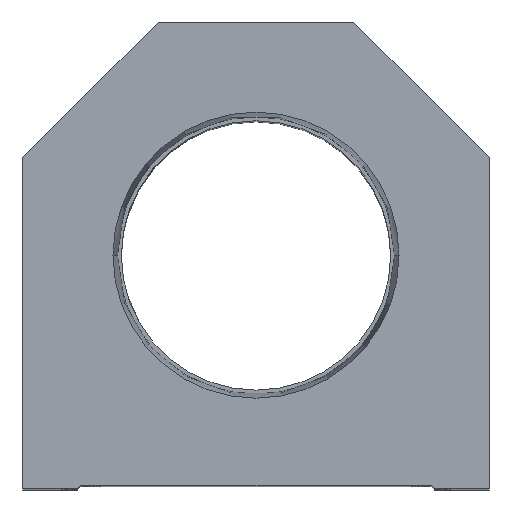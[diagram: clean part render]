
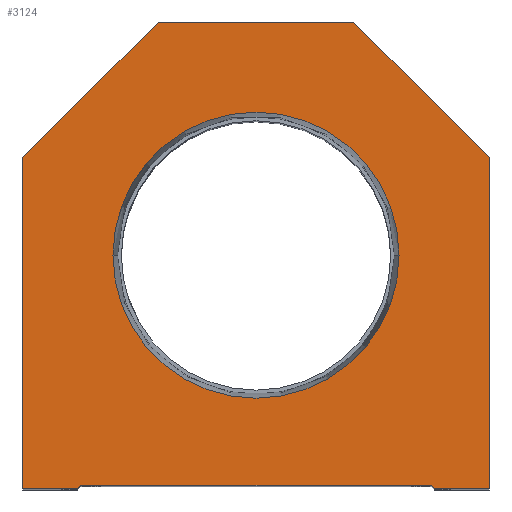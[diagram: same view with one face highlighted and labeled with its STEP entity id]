
A CAD part, top view. The second image highlights one B-rep face of the part: STEP entity #3124.
In plain terms, the highlighted planar face has unit normal (0, 0, 1).
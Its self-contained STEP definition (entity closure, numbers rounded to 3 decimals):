
#199 = FACE_BOUND ( 'NONE', #1363, .T. ) ;
#353 = VECTOR ( 'NONE', #7825, 1000. ) ;
#383 = VECTOR ( 'NONE', #1575, 1000. ) ;
#970 = EDGE_CURVE ( 'NONE', #13100, #6611, #3963, .T. ) ;
#1093 = ORIENTED_EDGE ( 'NONE', *, *, #12048, .T. ) ;
#1363 = EDGE_LOOP ( 'NONE', ( #12205, #3688 ) ) ;
#1563 = DIRECTION ( 'NONE',  ( 1., 0., 0. ) ) ;
#1575 = DIRECTION ( 'NONE',  ( 1., 0., 0. ) ) ;
#1595 = DIRECTION ( 'NONE',  ( -1., 0., 0. ) ) ;
#1613 = CARTESIAN_POINT ( 'NONE',  ( 38.1, 0., 0. ) ) ;
#1743 = CARTESIAN_POINT ( 'NONE',  ( 0., 38.1, 0. ) ) ;
#1983 = EDGE_CURVE ( 'NONE', #13194, #3846, #12935, .T. ) ;
#2704 = CARTESIAN_POINT ( 'NONE',  ( -38.1, 54.1, 0. ) ) ;
#2813 = CARTESIAN_POINT ( 'NONE',  ( 0., 0., 0. ) ) ;
#2831 = AXIS2_PLACEMENT_3D ( 'NONE', #2813, #4077, #1563 ) ;
#2880 = ORIENTED_EDGE ( 'NONE', *, *, #16365, .T. ) ;
#3031 = CARTESIAN_POINT ( 'NONE',  ( 14.55, 14.55, 0. ) ) ;
#3124 = ADVANCED_FACE ( 'NONE', ( #199, #5336 ), #15608, .T. ) ;
#3467 = VECTOR ( 'NONE', #13324, 1000. ) ;
#3688 = ORIENTED_EDGE ( 'NONE', *, *, #4573, .F. ) ;
#3700 = DIRECTION ( 'NONE',  ( 0., -1., 0. ) ) ;
#3846 = VERTEX_POINT ( 'NONE', #1613 ) ;
#3963 = LINE ( 'NONE', #2704, #13917 ) ;
#4077 = DIRECTION ( 'NONE',  ( 0., 0., 1. ) ) ;
#4109 = LINE ( 'NONE', #12874, #353 ) ;
#4193 = CARTESIAN_POINT ( 'NONE',  ( 16., 76.2, 0. ) ) ;
#4211 = VERTEX_POINT ( 'NONE', #5773 ) ;
#4263 = CARTESIAN_POINT ( 'NONE',  ( 38.1, 54.1, 0. ) ) ;
#4275 = CARTESIAN_POINT ( 'NONE',  ( 23.374, 38.1, 0. ) ) ;
#4345 = VERTEX_POINT ( 'NONE', #10125 ) ;
#4398 = AXIS2_PLACEMENT_3D ( 'NONE', #15289, #6286, #11756 ) ;
#4573 = EDGE_CURVE ( 'NONE', #4345, #6707, #6410, .T. ) ;
#4615 = CARTESIAN_POINT ( 'NONE',  ( 28.6, 0.5, 0. ) ) ;
#5140 = DIRECTION ( 'NONE',  ( -0.707, -0.707, 0. ) ) ;
#5336 = FACE_OUTER_BOUND ( 'NONE', #10319, .T. ) ;
#5601 = DIRECTION ( 'NONE',  ( 0., 0., 1. ) ) ;
#5773 = CARTESIAN_POINT ( 'NONE',  ( -38.1, 0., 0. ) ) ;
#5838 = EDGE_CURVE ( 'NONE', #11083, #13283, #16314, .T. ) ;
#6286 = DIRECTION ( 'NONE',  ( 0., 0., 1. ) ) ;
#6410 = CIRCLE ( 'NONE', #12565, 23.374 ) ;
#6441 = VECTOR ( 'NONE', #12543, 1000. ) ;
#6611 = VERTEX_POINT ( 'NONE', #8502 ) ;
#6707 = VERTEX_POINT ( 'NONE', #4275 ) ;
#6853 = CARTESIAN_POINT ( 'NONE',  ( -28.6, 0., 0. ) ) ;
#6999 = DIRECTION ( 'NONE',  ( 0.707, -0.707, 0. ) ) ;
#7177 = DIRECTION ( 'NONE',  ( 1., 0., 0. ) ) ;
#7719 = CARTESIAN_POINT ( 'NONE',  ( 28.6, 0., 0. ) ) ;
#7825 = DIRECTION ( 'NONE',  ( -0.707, 0.707, 0. ) ) ;
#8110 = LINE ( 'NONE', #13239, #3467 ) ;
#8489 = EDGE_CURVE ( 'NONE', #12233, #13194, #15827, .T. ) ;
#8502 = CARTESIAN_POINT ( 'NONE',  ( -38.1, 54.1, 0. ) ) ;
#8524 = CARTESIAN_POINT ( 'NONE',  ( -14.55, 14.55, 0. ) ) ;
#8963 = LINE ( 'NONE', #10308, #16451 ) ;
#9100 = EDGE_CURVE ( 'NONE', #10234, #13100, #13289, .T. ) ;
#9156 = VECTOR ( 'NONE', #3700, 1000. ) ;
#9165 = DIRECTION ( 'NONE',  ( 1., 0., 0. ) ) ;
#9428 = VECTOR ( 'NONE', #7177, 1000. ) ;
#9868 = CARTESIAN_POINT ( 'NONE',  ( 16., 76.2, 0. ) ) ;
#9939 = EDGE_CURVE ( 'NONE', #4211, #11083, #15927, .T. ) ;
#9998 = CARTESIAN_POINT ( 'NONE',  ( 29.1, 0., 0. ) ) ;
#10065 = ORIENTED_EDGE ( 'NONE', *, *, #12275, .T. ) ;
#10125 = CARTESIAN_POINT ( 'NONE',  ( -23.374, 38.1, 0. ) ) ;
#10154 = ORIENTED_EDGE ( 'NONE', *, *, #970, .T. ) ;
#10234 = VERTEX_POINT ( 'NONE', #9868 ) ;
#10308 = CARTESIAN_POINT ( 'NONE',  ( -28.6, 0.5, 0. ) ) ;
#10319 = EDGE_LOOP ( 'NONE', ( #14999, #12249, #1093, #15371, #13378, #2880, #10065, #16182, #10154, #12531 ) ) ;
#10396 = DIRECTION ( 'NONE',  ( 1., 0., 0. ) ) ;
#10638 = EDGE_CURVE ( 'NONE', #6707, #4345, #15663, .T. ) ;
#11083 = VERTEX_POINT ( 'NONE', #14909 ) ;
#11550 = LINE ( 'NONE', #13895, #9156 ) ;
#11756 = DIRECTION ( 'NONE',  ( 1., 0., 0. ) ) ;
#12048 = EDGE_CURVE ( 'NONE', #13283, #12233, #8963, .T. ) ;
#12205 = ORIENTED_EDGE ( 'NONE', *, *, #10638, .F. ) ;
#12233 = VERTEX_POINT ( 'NONE', #4615 ) ;
#12249 = ORIENTED_EDGE ( 'NONE', *, *, #5838, .T. ) ;
#12275 = EDGE_CURVE ( 'NONE', #14653, #10234, #4109, .T. ) ;
#12531 = ORIENTED_EDGE ( 'NONE', *, *, #15866, .T. ) ;
#12543 = DIRECTION ( 'NONE',  ( 0.707, 0.707, 0. ) ) ;
#12565 = AXIS2_PLACEMENT_3D ( 'NONE', #1743, #5601, #9165 ) ;
#12874 = CARTESIAN_POINT ( 'NONE',  ( 38.1, 54.1, 0. ) ) ;
#12935 = LINE ( 'NONE', #7719, #383 ) ;
#13100 = VERTEX_POINT ( 'NONE', #16031 ) ;
#13194 = VERTEX_POINT ( 'NONE', #9998 ) ;
#13239 = CARTESIAN_POINT ( 'NONE',  ( 38.1, 0., 0. ) ) ;
#13283 = VERTEX_POINT ( 'NONE', #15607 ) ;
#13289 = LINE ( 'NONE', #4193, #15906 ) ;
#13324 = DIRECTION ( 'NONE',  ( 0., 1., 0. ) ) ;
#13378 = ORIENTED_EDGE ( 'NONE', *, *, #1983, .T. ) ;
#13895 = CARTESIAN_POINT ( 'NONE',  ( -38.1, 0., 0. ) ) ;
#13917 = VECTOR ( 'NONE', #5140, 1000. ) ;
#14199 = VECTOR ( 'NONE', #6999, 1000. ) ;
#14653 = VERTEX_POINT ( 'NONE', #4263 ) ;
#14909 = CARTESIAN_POINT ( 'NONE',  ( -29.1, 0., 0. ) ) ;
#14999 = ORIENTED_EDGE ( 'NONE', *, *, #9939, .T. ) ;
#15289 = CARTESIAN_POINT ( 'NONE',  ( 0., 38.1, 0. ) ) ;
#15371 = ORIENTED_EDGE ( 'NONE', *, *, #8489, .T. ) ;
#15607 = CARTESIAN_POINT ( 'NONE',  ( -28.6, 0.5, 0. ) ) ;
#15608 = PLANE ( 'NONE',  #2831 ) ;
#15663 = CIRCLE ( 'NONE', #4398, 23.374 ) ;
#15827 = LINE ( 'NONE', #3031, #14199 ) ;
#15866 = EDGE_CURVE ( 'NONE', #6611, #4211, #11550, .T. ) ;
#15906 = VECTOR ( 'NONE', #1595, 1000. ) ;
#15927 = LINE ( 'NONE', #6853, #9428 ) ;
#16031 = CARTESIAN_POINT ( 'NONE',  ( -16., 76.2, 0. ) ) ;
#16182 = ORIENTED_EDGE ( 'NONE', *, *, #9100, .T. ) ;
#16314 = LINE ( 'NONE', #8524, #6441 ) ;
#16365 = EDGE_CURVE ( 'NONE', #3846, #14653, #8110, .T. ) ;
#16451 = VECTOR ( 'NONE', #10396, 1000. ) ;
